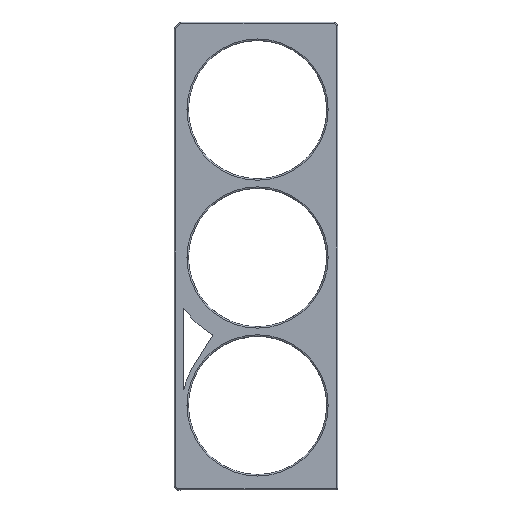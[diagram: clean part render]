
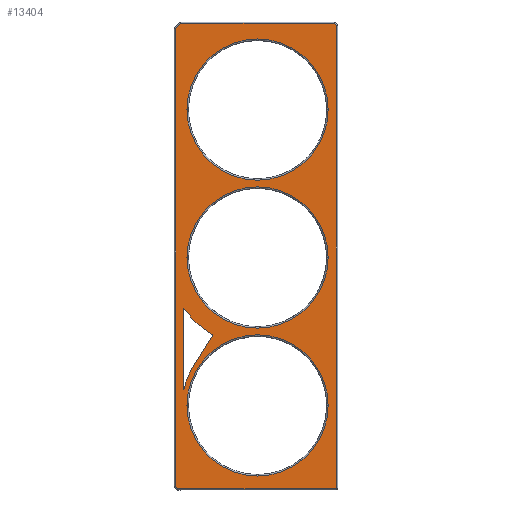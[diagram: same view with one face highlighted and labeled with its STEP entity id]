
A CAD part, top view. The second image highlights one B-rep face of the part: STEP entity #13404.
In plain terms, the highlighted planar face has unit normal (0, 0, 1).
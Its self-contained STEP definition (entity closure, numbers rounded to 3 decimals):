
#694=DIRECTION('',(0.,1.,0.));
#695=VECTOR('',#694,324.994);
#696=CARTESIAN_POINT('',(-58.2,-162.497,33.7));
#697=LINE('',#696,#695);
#702=DIRECTION('',(-0.707,-0.707,0.));
#703=VECTOR('',#702,5.237);
#704=CARTESIAN_POINT('',(-54.497,166.2,33.7));
#705=LINE('',#704,#703);
#709=DIRECTION('',(-1.,0.,0.));
#710=VECTOR('',#709,108.994);
#711=CARTESIAN_POINT('',(54.497,166.2,33.7));
#712=LINE('',#711,#710);
#716=DIRECTION('',(-0.707,0.707,0.));
#717=VECTOR('',#716,2.125);
#718=CARTESIAN_POINT('',(56.,164.697,33.7));
#719=LINE('',#718,#717);
#723=DIRECTION('',(0.,1.,0.));
#724=VECTOR('',#723,328.697);
#725=CARTESIAN_POINT('',(56.,-164.,33.7));
#726=LINE('',#725,#724);
#730=DIRECTION('',(1.,0.,0.));
#731=VECTOR('',#730,112.697);
#732=CARTESIAN_POINT('',(-56.697,-164.,33.7));
#733=LINE('',#732,#731);
#737=DIRECTION('',(0.707,-0.707,0.));
#738=VECTOR('',#737,2.125);
#739=CARTESIAN_POINT('',(-58.2,-162.497,33.7));
#740=LINE('',#739,#738);
#744=CARTESIAN_POINT('',(0.,-105.,33.7));
#745=DIRECTION('',(0.,0.,-1.));
#746=DIRECTION('',(-1.,0.,0.));
#747=AXIS2_PLACEMENT_3D('',#744,#745,#746);
#752=CARTESIAN_POINT('',(0.,-105.,33.7));
#753=DIRECTION('',(0.,0.,-1.));
#754=DIRECTION('',(1.,0.,0.));
#755=AXIS2_PLACEMENT_3D('',#752,#753,#754);
#760=CARTESIAN_POINT('',(0.,0.,33.7));
#761=DIRECTION('',(0.,0.,-1.));
#762=DIRECTION('',(-1.,0.,0.));
#763=AXIS2_PLACEMENT_3D('',#760,#761,#762);
#768=CARTESIAN_POINT('',(0.,0.,33.7));
#769=DIRECTION('',(0.,0.,-1.));
#770=DIRECTION('',(1.,0.,0.));
#771=AXIS2_PLACEMENT_3D('',#768,#769,#770);
#776=CARTESIAN_POINT('',(0.,105.,33.7));
#777=DIRECTION('',(0.,0.,-1.));
#778=DIRECTION('',(1.,0.,0.));
#779=AXIS2_PLACEMENT_3D('',#776,#777,#778);
#784=CARTESIAN_POINT('',(0.,105.,33.7));
#785=DIRECTION('',(0.,0.,-1.));
#786=DIRECTION('',(-1.,0.,0.));
#787=AXIS2_PLACEMENT_3D('',#784,#785,#786);
#792=CARTESIAN_POINT('',(-33.048,-55.267,33.7));
#793=DIRECTION('',(0.,0.,-1.));
#794=DIRECTION('',(0.513,0.858,0.));
#795=AXIS2_PLACEMENT_3D('',#792,#793,#794);
#11605=DIRECTION('',(0.,1.,0.));
#11606=VECTOR('',#11605,57.291);
#11607=CARTESIAN_POINT('',(-52.85,-93.47,33.7));
#11608=LINE('',#11607,#11606);
#11626=CARTESIAN_POINT('',(-52.55,-93.47,
33.7));
#11627=DIRECTION('',(0.,0.,-1.));
#11628=DIRECTION('',(0.977,-0.214,0.));
#11629=AXIS2_PLACEMENT_3D('',#11626,#11627,#11628);
#11664=CARTESIAN_POINT('',(0.,-105.,33.7));
#11665=DIRECTION('',(0.,0.,1.));
#11666=DIRECTION('',(-0.848,0.53,0.));
#11667=AXIS2_PLACEMENT_3D('',#11664,#11665,#11666);
#11672=DIRECTION('',(-0.53,-0.848,0.));
#11673=VECTOR('',#11672,24.633);
#11674=CARTESIAN_POINT('',(-32.29,-55.742,33.7));
#11675=LINE('',#11674,#11673);
#11707=CARTESIAN_POINT('',(0.,0.,33.7));
#11708=DIRECTION('',(0.,0.,1.));
#11709=DIRECTION('',(-0.824,-0.567,0.));
#11710=AXIS2_PLACEMENT_3D('',#11707,#11708,#11709);
#11731=CARTESIAN_POINT('',(-52.55,-36.179,
33.7));
#11732=DIRECTION('',(0.,0.,-1.));
#11733=DIRECTION('',(-1.,0.,0.));
#11734=AXIS2_PLACEMENT_3D('',#11731,#11732,#11733);
#11932=CARTESIAN_POINT('',(-32.589,-54.5,33.7));
#11933=CARTESIAN_POINT('',(-32.29,-55.742,33.7));
#11934=VERTEX_POINT('',#11932);
#11935=VERTEX_POINT('',#11933);
#11941=CARTESIAN_POINT('',(-45.355,-76.624,33.7));
#11943=VERTEX_POINT('',#11941);
#12896=CARTESIAN_POINT('',(-54.497,166.2,33.7));
#12897=CARTESIAN_POINT('',(-58.2,162.497,33.7));
#12898=VERTEX_POINT('',#12896);
#12899=VERTEX_POINT('',#12897);
#12904=CARTESIAN_POINT('',(54.497,166.2,33.7));
#12905=VERTEX_POINT('',#12904);
#12910=CARTESIAN_POINT('',(56.,164.697,33.7));
#12911=VERTEX_POINT('',#12910);
#12916=CARTESIAN_POINT('',(56.,-164.,33.7));
#12917=VERTEX_POINT('',#12916);
#12922=CARTESIAN_POINT('',(-56.697,-164.,33.7));
#12923=VERTEX_POINT('',#12922);
#12928=CARTESIAN_POINT('',(-58.2,-162.497,33.7));
#12929=VERTEX_POINT('',#12928);
#12934=CARTESIAN_POINT('',(-50.133,-105.,33.7));
#12935=CARTESIAN_POINT('',(50.133,-105.,33.7));
#12936=VERTEX_POINT('',#12934);
#12937=VERTEX_POINT('',#12935);
#12942=CARTESIAN_POINT('',(-50.133,0.,33.7));
#12943=CARTESIAN_POINT('',(50.133,0.,33.7));
#12944=VERTEX_POINT('',#12942);
#12945=VERTEX_POINT('',#12943);
#12950=CARTESIAN_POINT('',(50.133,105.,33.7));
#12951=CARTESIAN_POINT('',(-50.133,105.,33.7));
#12952=VERTEX_POINT('',#12950);
#12953=VERTEX_POINT('',#12951);
#13021=CARTESIAN_POINT('',(-52.257,-93.534,33.7));
#13023=VERTEX_POINT('',#13021);
#13025=CARTESIAN_POINT('',(-52.85,-93.47,33.7));
#13027=VERTEX_POINT('',#13025);
#13030=CARTESIAN_POINT('',(-52.303,-36.009,33.7));
#13032=VERTEX_POINT('',#13030);
#13034=CARTESIAN_POINT('',(-52.85,-36.179,33.7));
#13036=VERTEX_POINT('',#13034);
#13349=CARTESIAN_POINT('',(-57.,-165.,33.7));
#13350=DIRECTION('',(0.,0.,1.));
#13351=DIRECTION('',(0.,1.,0.));
#13352=AXIS2_PLACEMENT_3D('',#13349,#13350,#13351);
#13353=PLANE('',#13352);
#13355=ORIENTED_EDGE('',*,*,#13354,.T.);
#13357=ORIENTED_EDGE('',*,*,#13356,.F.);
#13359=ORIENTED_EDGE('',*,*,#13358,.F.);
#13361=ORIENTED_EDGE('',*,*,#13360,.F.);
#13363=ORIENTED_EDGE('',*,*,#13362,.F.);
#13365=ORIENTED_EDGE('',*,*,#13364,.F.);
#13367=ORIENTED_EDGE('',*,*,#13366,.F.);
#13368=EDGE_LOOP('',(#13355,#13357,#13359,#13361,#13363,#13365,#13367));
#13369=FACE_OUTER_BOUND('',#13368,.F.);
#13371=ORIENTED_EDGE('',*,*,#13370,.F.);
#13373=ORIENTED_EDGE('',*,*,#13372,.F.);
#13374=EDGE_LOOP('',(#13371,#13373));
#13375=FACE_BOUND('',#13374,.F.);
#13377=ORIENTED_EDGE('',*,*,#13376,.F.);
#13379=ORIENTED_EDGE('',*,*,#13378,.F.);
#13380=EDGE_LOOP('',(#13377,#13379));
#13381=FACE_BOUND('',#13380,.F.);
#13383=ORIENTED_EDGE('',*,*,#13382,.F.);
#13385=ORIENTED_EDGE('',*,*,#13384,.F.);
#13386=EDGE_LOOP('',(#13383,#13385));
#13387=FACE_BOUND('',#13386,.F.);
#13389=ORIENTED_EDGE('',*,*,#13388,.F.);
#13391=ORIENTED_EDGE('',*,*,#13390,.F.);
#13393=ORIENTED_EDGE('',*,*,#13392,.F.);
#13395=ORIENTED_EDGE('',*,*,#13394,.F.);
#13397=ORIENTED_EDGE('',*,*,#13396,.F.);
#13399=ORIENTED_EDGE('',*,*,#13398,.F.);
#13401=ORIENTED_EDGE('',*,*,#13400,.F.);
#13402=EDGE_LOOP('',(#13389,#13391,#13393,#13395,#13397,#13399,#13401));
#13403=FACE_BOUND('',#13402,.F.);
#748=CIRCLE('',#747,50.133);
#756=CIRCLE('',#755,50.133);
#764=CIRCLE('',#763,50.133);
#772=CIRCLE('',#771,50.133);
#780=CIRCLE('',#779,50.133);
#788=CIRCLE('',#787,50.133);
#796=CIRCLE('',#795,0.894);
#11630=CIRCLE('',#11629,0.3);
#11668=CIRCLE('',#11667,53.5);
#11711=CIRCLE('',#11710,63.5);
#11735=CIRCLE('',#11734,0.3);
#13354=EDGE_CURVE('',#12929,#12899,#697,.T.);
#13356=EDGE_CURVE('',#12898,#12899,#705,.T.);
#13358=EDGE_CURVE('',#12905,#12898,#712,.T.);
#13360=EDGE_CURVE('',#12911,#12905,#719,.T.);
#13362=EDGE_CURVE('',#12917,#12911,#726,.T.);
#13364=EDGE_CURVE('',#12923,#12917,#733,.T.);
#13366=EDGE_CURVE('',#12929,#12923,#740,.T.);
#13370=EDGE_CURVE('',#12936,#12937,#748,.T.);
#13372=EDGE_CURVE('',#12937,#12936,#756,.T.);
#13376=EDGE_CURVE('',#12944,#12945,#764,.T.);
#13378=EDGE_CURVE('',#12945,#12944,#772,.T.);
#13382=EDGE_CURVE('',#12952,#12953,#780,.T.);
#13384=EDGE_CURVE('',#12953,#12952,#788,.T.);
#13388=EDGE_CURVE('',#13032,#11934,#11711,.T.);
#13390=EDGE_CURVE('',#13036,#13032,#11735,.T.);
#13392=EDGE_CURVE('',#13027,#13036,#11608,.T.);
#13394=EDGE_CURVE('',#13023,#13027,#11630,.T.);
#13396=EDGE_CURVE('',#11943,#13023,#11668,.T.);
#13398=EDGE_CURVE('',#11935,#11943,#11675,.T.);
#13400=EDGE_CURVE('',#11934,#11935,#796,.T.);
#13404=ADVANCED_FACE('',(#13369,#13375,#13381,#13387,#13403),#13353,.T.);
